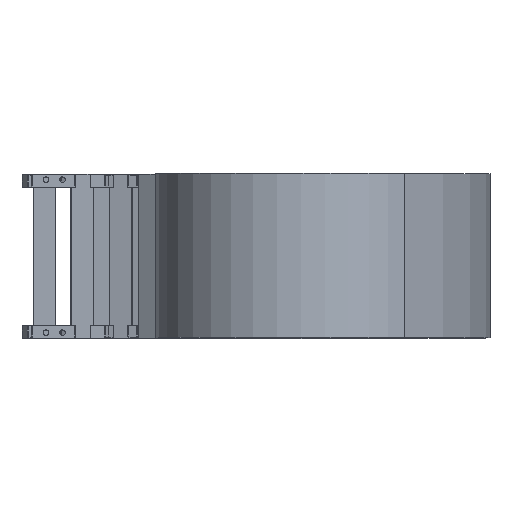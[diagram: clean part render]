
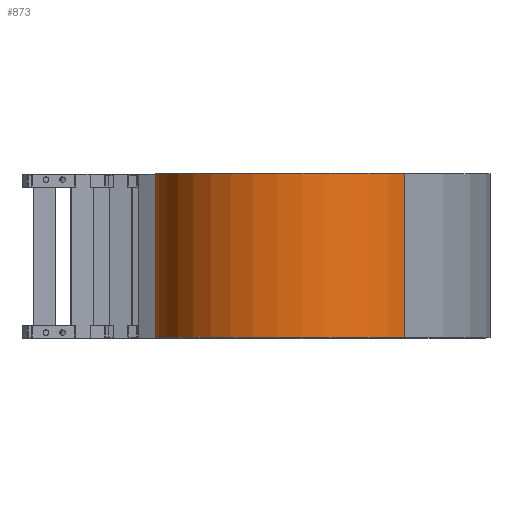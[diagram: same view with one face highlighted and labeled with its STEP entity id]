
A CAD part, top view. The second image highlights one B-rep face of the part: STEP entity #873.
In plain terms, the highlighted cylindrical face has radius 150 mm (diameter 300 mm), a partial arc.
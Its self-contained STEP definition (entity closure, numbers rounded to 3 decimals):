
#873 = ADVANCED_FACE( '', ( #1861 ), #1862, .T. );
#1861 = FACE_OUTER_BOUND( '', #2967, .T. );
#1862 = CYLINDRICAL_SURFACE( '', #2968, 150. );
#2967 = EDGE_LOOP( '', ( #5510, #5511, #5512, #5513 ) );
#2968 = AXIS2_PLACEMENT_3D( '', #5514, #5515, #5516 );
#5510 = ORIENTED_EDGE( '', *, *, #7868, .T. );
#5511 = ORIENTED_EDGE( '', *, *, #7869, .F. );
#5512 = ORIENTED_EDGE( '', *, *, #7351, .F. );
#5513 = ORIENTED_EDGE( '', *, *, #7870, .T. );
#5514 = CARTESIAN_POINT( '', ( 247.117, 89., 187.171 ) );
#5515 = DIRECTION( '', ( 0., 1., 0. ) );
#5516 = DIRECTION( '', ( 0., 0., -1. ) );
#7351 = EDGE_CURVE( '', #9109, #9111, #9112, .T. );
#7868 = EDGE_CURVE( '', #9847, #9848, #9849, .T. );
#7869 = EDGE_CURVE( '', #9111, #9848, #9850, .T. );
#7870 = EDGE_CURVE( '', #9109, #9847, #9851, .T. );
#9109 = VERTEX_POINT( '', #11506 );
#9111 = VERTEX_POINT( '', #11508 );
#9112 = CIRCLE( '', #11509, 150. );
#9847 = VERTEX_POINT( '', #12579 );
#9848 = VERTEX_POINT( '', #12580 );
#9849 = CIRCLE( '', #12581, 150. );
#9850 = LINE( '', #12582, #12583 );
#9851 = LINE( '', #12584, #12585 );
#11506 = CARTESIAN_POINT( '', ( 127.544, 89., 96.604 ) );
#11508 = CARTESIAN_POINT( '', ( 366.69, 89., 277.738 ) );
#11509 = AXIS2_PLACEMENT_3D( '', #13647, #13648, #13649 );
#12579 = CARTESIAN_POINT( '', ( 127.544, -89., 96.604 ) );
#12580 = CARTESIAN_POINT( '', ( 366.69, -89., 277.738 ) );
#12581 = AXIS2_PLACEMENT_3D( '', #14171, #14172, #14173 );
#12582 = CARTESIAN_POINT( '', ( 366.69, 89., 277.738 ) );
#12583 = VECTOR( '', #14174, 1000. );
#12584 = CARTESIAN_POINT( '', ( 127.544, 89., 96.604 ) );
#12585 = VECTOR( '', #14175, 1000. );
#13647 = CARTESIAN_POINT( '', ( 247.117, 89., 187.171 ) );
#13648 = DIRECTION( '', ( 0., 1., 0. ) );
#13649 = DIRECTION( '', ( 1., 0., 0. ) );
#14171 = CARTESIAN_POINT( '', ( 247.117, -89., 187.171 ) );
#14172 = DIRECTION( '', ( 0., 1., 0. ) );
#14173 = DIRECTION( '', ( 1., 0., 0. ) );
#14174 = DIRECTION( '', ( 0., -1., 0. ) );
#14175 = DIRECTION( '', ( 0., -1., 0. ) );
